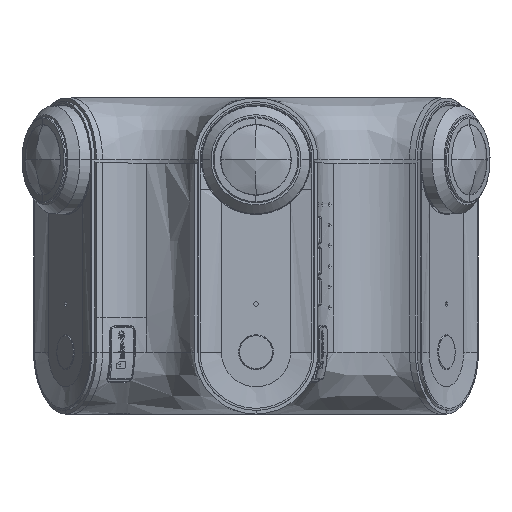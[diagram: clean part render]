
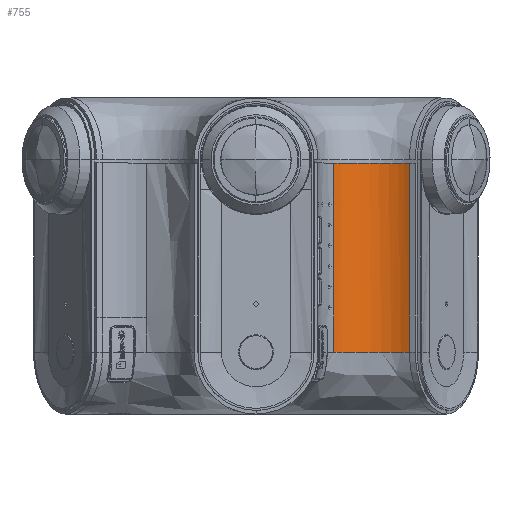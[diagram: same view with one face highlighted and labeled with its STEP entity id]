
A CAD part, front view. The second image highlights one B-rep face of the part: STEP entity #755.
In plain terms, the highlighted free-form (B-spline) face has degree [1, 2] with [2, 9] control points.
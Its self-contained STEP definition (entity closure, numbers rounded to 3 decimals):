
#755=ADVANCED_FACE('',(#2286),#24006,.T.);
#2286=FACE_OUTER_BOUND('',#3870,.T.);
#3870=EDGE_LOOP('',(#7868,#7869,#7870,#7871));
#7868=ORIENTED_EDGE('',*,*,#12863,.F.);
#7869=ORIENTED_EDGE('',*,*,#13702,.F.);
#7870=ORIENTED_EDGE('',*,*,#14155,.F.);
#7871=ORIENTED_EDGE('',*,*,#14156,.F.);
#12863=EDGE_CURVE('',#20512,#20507,#19207,.T.);
#13702=EDGE_CURVE('',#21058,#20512,#17081,.T.);
#14155=EDGE_CURVE('',#21343,#21058,#19661,.T.);
#14156=EDGE_CURVE('',#20507,#21343,#17410,.T.);
#17081=B_SPLINE_CURVE_WITH_KNOTS('',1,(#61125,#61126),.UNSPECIFIED.,.F.,
 .F.,(2,2),(0.,55.),.UNSPECIFIED.);
#17410=B_SPLINE_CURVE_WITH_KNOTS('',1,(#63163,#63164),.UNSPECIFIED.,.F.,
 .F.,(2,2),(0.,55.),.UNSPECIFIED.);
#19207=(
BOUNDED_CURVE()
B_SPLINE_CURVE(2,(#56699,#56700,#56701,#56702,#56703),.UNSPECIFIED.,.F.,
 .F.)
B_SPLINE_CURVE_WITH_KNOTS((3,2,3),(-24.102,-14.636,0.),
 .UNSPECIFIED.)
CURVE()
GEOMETRIC_REPRESENTATION_ITEM()
RATIONAL_B_SPLINE_CURVE((1.,0.966,1.,0.915,1.))
REPRESENTATION_ITEM('')
);
#19661=(
BOUNDED_CURVE()
B_SPLINE_CURVE(2,(#63158,#63159,#63160,#63161,#63162),.UNSPECIFIED.,.F.,
 .F.)
B_SPLINE_CURVE_WITH_KNOTS((3,2,3),(-24.102,-9.466,0.),
 .UNSPECIFIED.)
CURVE()
GEOMETRIC_REPRESENTATION_ITEM()
RATIONAL_B_SPLINE_CURVE((1.,0.915,1.,0.966,1.))
REPRESENTATION_ITEM('')
);
#20507=VERTEX_POINT('',#52712);
#20512=VERTEX_POINT('',#52717);
#21058=VERTEX_POINT('',#53263);
#21343=VERTEX_POINT('',#53548);
#24006=(
BOUNDED_SURFACE()
B_SPLINE_SURFACE(1,2,((#37288,#37289,#37290,#37291,#37292,#37293,#37294,
#37295,#37296),(#37297,#37298,#37299,#37300,#37301,#37302,#37303,#37304,
#37305)),.UNSPECIFIED.,.F.,.F.,.F.)
B_SPLINE_SURFACE_WITH_KNOTS((2,2),(3,2,2,2,3),(0.,66.546),(0.,
35.591,71.183,106.774,142.366),
 .UNSPECIFIED.)
GEOMETRIC_REPRESENTATION_ITEM()
RATIONAL_B_SPLINE_SURFACE(((1.,0.707,1.,0.707,1.,
0.707,1.,0.707,1.),(1.,0.707,1.,0.707,
1.,0.707,1.,0.707,1.)))
REPRESENTATION_ITEM('')
SURFACE()
);
#37288=CARTESIAN_POINT('',(35.796,-79.796,-60.773));
#37289=CARTESIAN_POINT('',(53.591,-79.796,-60.773));
#37290=CARTESIAN_POINT('',(53.591,-62.,-60.773));
#37291=CARTESIAN_POINT('',(53.591,-44.204,-60.773));
#37292=CARTESIAN_POINT('',(35.796,-44.204,-60.773));
#37293=CARTESIAN_POINT('',(18.,-44.204,-60.773));
#37294=CARTESIAN_POINT('',(18.,-62.,-60.773));
#37295=CARTESIAN_POINT('',(18.,-79.796,-60.773));
#37296=CARTESIAN_POINT('',(35.796,-79.796,-60.773));
#37297=CARTESIAN_POINT('',(35.796,-79.796,5.773));
#37298=CARTESIAN_POINT('',(53.591,-79.796,5.773));
#37299=CARTESIAN_POINT('',(53.591,-62.,5.773));
#37300=CARTESIAN_POINT('',(53.591,-44.204,5.773));
#37301=CARTESIAN_POINT('',(35.796,-44.204,5.773));
#37302=CARTESIAN_POINT('',(18.,-44.204,5.773));
#37303=CARTESIAN_POINT('',(18.,-62.,5.773));
#37304=CARTESIAN_POINT('',(18.,-79.796,5.773));
#37305=CARTESIAN_POINT('',(35.796,-79.796,5.773));
#52712=CARTESIAN_POINT('',(22.655,-50.,-55.));
#52717=CARTESIAN_POINT('',(44.694,-46.588,-55.));
#53263=CARTESIAN_POINT('',(44.694,-46.588,0.));
#53548=CARTESIAN_POINT('',(22.655,-50.,0.));
#56699=CARTESIAN_POINT('',(44.694,-46.588,-55.));
#56700=CARTESIAN_POINT('',(40.564,-44.204,-55.));
#56701=CARTESIAN_POINT('',(35.796,-44.204,-55.));
#56702=CARTESIAN_POINT('',(27.947,-44.204,-55.));
#56703=CARTESIAN_POINT('',(22.655,-50.,-55.));
#61125=CARTESIAN_POINT('',(44.694,-46.588,0.));
#61126=CARTESIAN_POINT('',(44.694,-46.588,-55.));
#63158=CARTESIAN_POINT('',(22.655,-50.,0.));
#63159=CARTESIAN_POINT('',(27.947,-44.204,0.));
#63160=CARTESIAN_POINT('',(35.796,-44.204,0.));
#63161=CARTESIAN_POINT('',(40.564,-44.204,0.));
#63162=CARTESIAN_POINT('',(44.694,-46.588,0.));
#63163=CARTESIAN_POINT('',(22.655,-50.,-55.));
#63164=CARTESIAN_POINT('',(22.655,-50.,0.));
